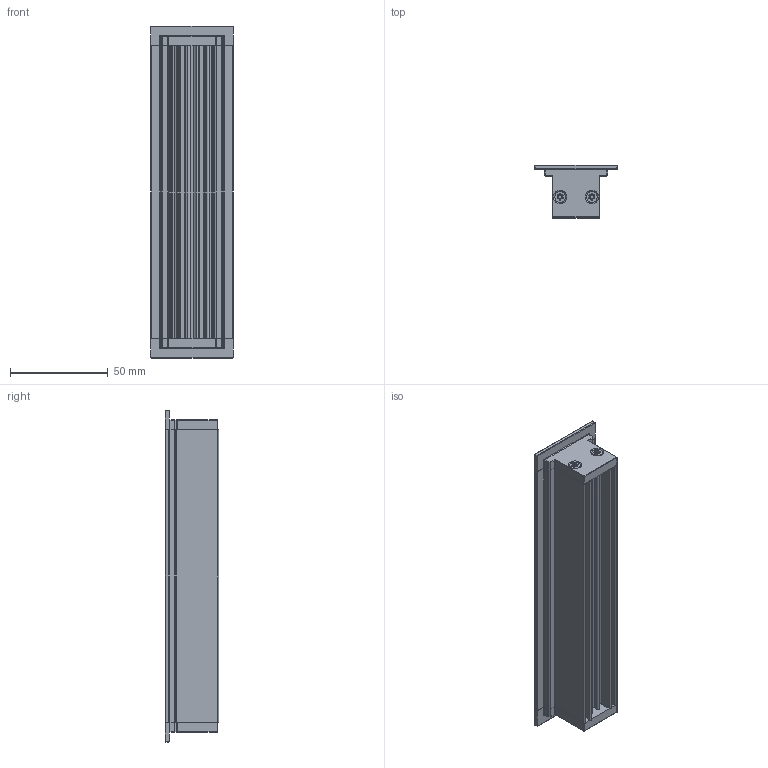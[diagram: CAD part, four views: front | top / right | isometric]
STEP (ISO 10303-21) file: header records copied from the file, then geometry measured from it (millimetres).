
FILE_DESCRIPTION (( 'STEP AP214' ), '1' );
FILE_NAME ('Dot 5.STEP', '2017-10-20T10:45:05', ( 'Ofitecnic3' ), ( 'Microsoft' ), 'SwSTEP 2.0', 'SolidWorks 2016', '' );
FILE_SCHEMA (( 'AUTOMOTIVE_DESIGN' ));
Length unit declared in the file: millimetre
Products named in the file (6): M3  BIM-Avellanedo Torx_8; Tapa Lateral  BIM(DOT-DOT.TILT)_Tapa Emp.; Led BIM (DOT)_5; Perfil Tapa  BIM(SYSTEM CLICK)_EX5; Disipador BIM (DOT)_150 M3; Dot  5
Assembly tree (9 placements, depth 2):
  Dot  5
    Disipador BIM (DOT)_150 M3
    Perfil Tapa  BIM(SYSTEM CLICK)_EX5
    Led BIM (DOT)_5
    Tapa Lateral  BIM(DOT-DOT.TILT)_Tapa Emp.  x2
    M3  BIM-Avellanedo Torx_8  x4
Bounding box: 42 x 27.3 x 170 mm (x, y, z)
Volume: 95301.6 mm3; surface area: 47471.2 mm2
Topology: 13 solids, 13 shells, 394 faces, 972 edges, 580 vertices
Faces by surface type: cylinder 186, plane 102, sphere 40, torus 40, cone 26
Entity records: 6847 total; most frequent: DIRECTION 1245, CARTESIAN_POINT 1125, ORIENTED_EDGE 1082, EDGE_CURVE 541, AXIS2_PLACEMENT_3D 477, VERTEX_POINT 341, VECTOR 291, LINE 291
